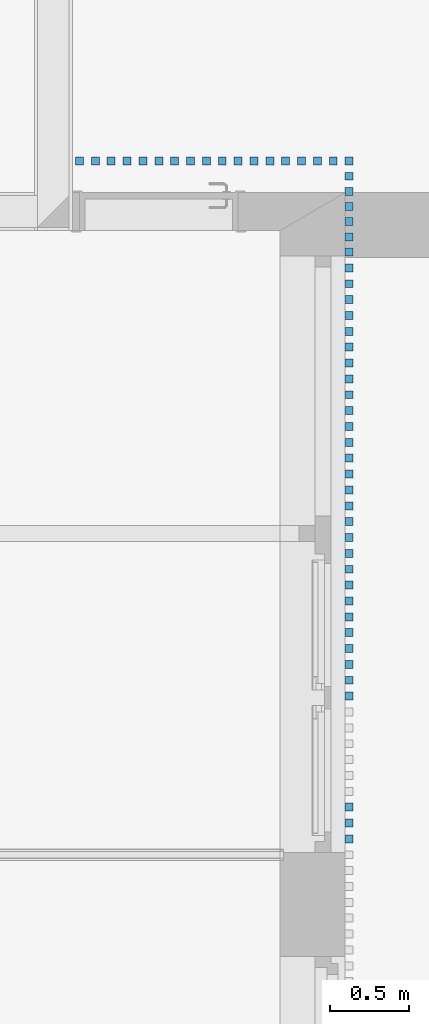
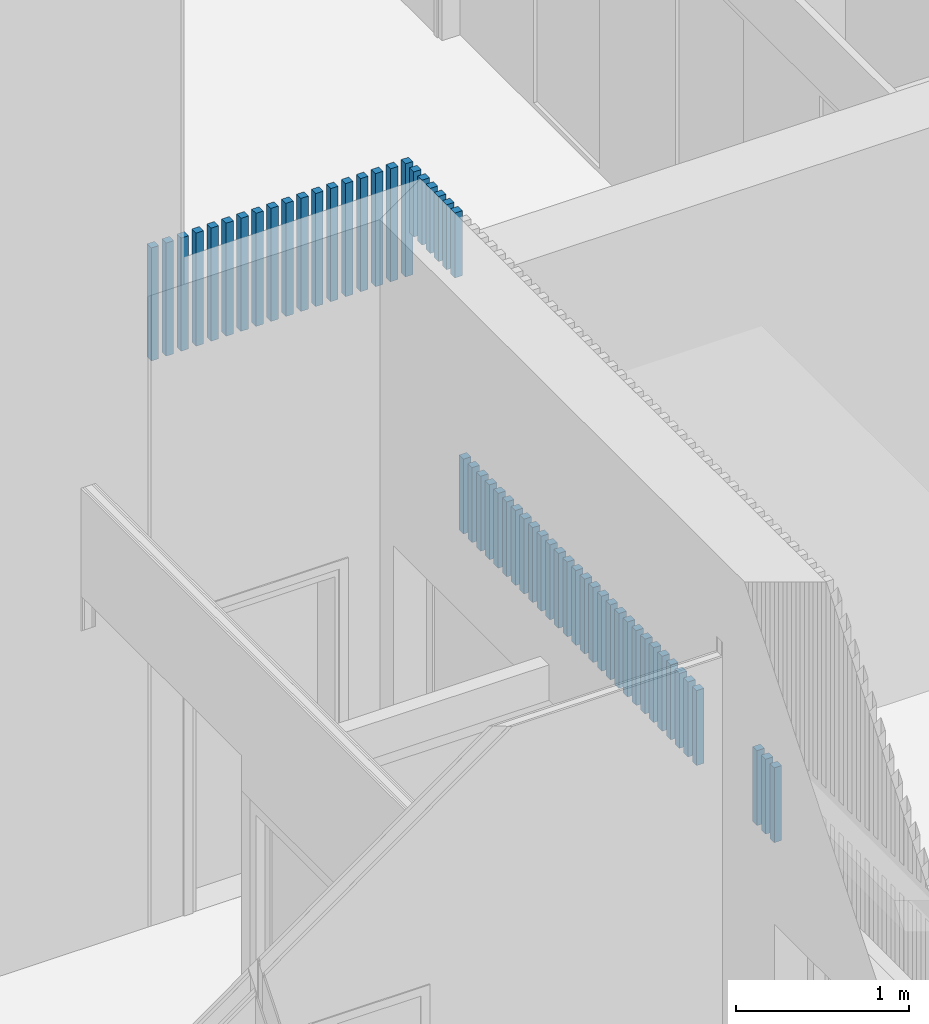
# One storey, part 2 of 34: 55 columns.
"""IFC2X3 building model written with IfcOpenShell, lengths in metres."""

from ifc_helpers import new_model, entity, si_unit, converted_unit, derived_unit, money_unit, direction, frame, origin_with_axes, origin_2d_with_axis, place, context, subcontext, project, spatial, rectangle, extrude, material, type_object, element, save


model = new_model("IFC2X3")

# Units and contexts
model_context = context("Model", 3, precision=1e-05, world=origin_with_axes(), true_north=direction((0.0, 1.0)))
body_context = subcontext(model_context, "Body", "Model", "MODEL_VIEW")
ifc_project = project(units=[si_unit("LENGTHUNIT", "METRE"), si_unit("AREAUNIT", "SQUARE_METRE"), si_unit("VOLUMEUNIT", "CUBIC_METRE"), converted_unit("PLANEANGLEUNIT", "DEGREE", entity("IfcPlaneAngleMeasure", 0.0174532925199), si_unit("PLANEANGLEUNIT", "RADIAN"), dimensions=[0, 0, 0, 0, 0, 0, 0]), money_unit("CHF"), converted_unit("TIMEUNIT", "Year", entity("IfcTimeMeasure", 31556926.0), si_unit("TIMEUNIT", "SECOND"), dimensions=[0, 0, 1, 0, 0, 0, 0]), si_unit("MASSUNIT", "GRAM", prefix="KILO"), si_unit("THERMODYNAMICTEMPERATUREUNIT", "DEGREE_CELSIUS"), si_unit("LUMINOUSINTENSITYUNIT", "LUMEN"), si_unit("ENERGYUNIT", "JOULE", prefix="MEGA"), derived_unit("THERMALCONDUCTANCEUNIT", [(si_unit("POWERUNIT", "WATT"), 1), (si_unit("LENGTHUNIT", "METRE"), -1), (si_unit("THERMODYNAMICTEMPERATUREUNIT", "KELVIN"), -1)]), derived_unit("SPECIFICHEATCAPACITYUNIT", [(si_unit("ENERGYUNIT", "JOULE"), 1), (si_unit("MASSUNIT", "GRAM", prefix="KILO"), -1), (si_unit("THERMODYNAMICTEMPERATUREUNIT", "KELVIN"), -1)]), derived_unit("MASSDENSITYUNIT", [(si_unit("MASSUNIT", "GRAM", prefix="KILO"), 1), (si_unit("VOLUMEUNIT", "CUBIC_METRE"), -1)])], contexts=[model_context])

# Site, building, storey
site_placement = place(None, origin_with_axes())
site = spatial("IfcSite", under=ifc_project, at=site_placement, Name="Site", CompositionType="ELEMENT")
building_placement = place(site_placement, origin_with_axes())
building = spatial("IfcBuilding", under=site, at=building_placement, Name="Bâtiment", CompositionType="ELEMENT")
storey_placement = place(building_placement, origin_with_axes())
storey = spatial("IfcBuildingStorey", under=building, at=storey_placement, Name="Rez-de-chaussée", CompositionType="ELEMENT", Elevation=0.0)

# Columns
ifc_material = material(Name="GEN - Structurel")
column_type = type_object("IfcColumnType", Name="GEN - Structurel 50 x 50", PredefinedType="COLUMN")
for number, where, z_axis, x_axis, name in (
    (1, (34.0644697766, 14.6451256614, 2.25), (0.0, 0.0, 1.0), (1.0, 0.0, 0.0), "POTEAU-002"),
    (2, (34.0644697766, 14.5451256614, 2.25), (0.0, 0.0, 1.0), (1.0, 0.0, 0.0), "POTEAU-002"),
    (3, (34.0644697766, 14.4451256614, 2.25), (0.0, 0.0, 1.0), (1.0, 0.0, 0.0), "POTEAU-002"),
    (4, (34.0644697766, 14.3451256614, 2.25), (0.0, 0.0, 1.0), (1.0, 0.0, 0.0), "POTEAU-002"),
    (5, (34.0644697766, 14.2451256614, 2.25), (0.0, 0.0, 1.0), (1.0, 0.0, 0.0), "POTEAU-002"),
    (6, (34.0644697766, 14.1451256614, 2.25), (0.0, 0.0, 1.0), (1.0, 0.0, 0.0), "POTEAU-002"),
    (7, (34.0644697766, 14.0451256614, 2.25), (0.0, 0.0, 1.0), (1.0, 0.0, 0.0), "POTEAU-002"),
    (8, (34.0644697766, 13.9451256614, 2.25), (0.0, 0.0, 1.0), (1.0, 0.0, 0.0), "POTEAU-002"),
    (9, (34.0644697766, 13.8451256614, 2.25), (0.0, 0.0, 1.0), (1.0, 0.0, 0.0), "POTEAU-002"),
    (10, (34.0644697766, 13.7451256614, 2.25), (0.0, 0.0, 1.0), (1.0, 0.0, 0.0), "POTEAU-002"),
    (11, (34.0644697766, 13.6451256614, 2.25), (0.0, 0.0, 1.0), (1.0, 0.0, 0.0), "POTEAU-002"),
    (12, (34.0644697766, 13.5451256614, 2.25), (0.0, 0.0, 1.0), (1.0, 0.0, 0.0), "POTEAU-002"),
    (13, (34.0644697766, 13.4451256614, 2.25), (0.0, 0.0, 1.0), (1.0, 0.0, 0.0), "POTEAU-002"),
    (14, (34.0644697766, 13.3451256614, 2.25), (0.0, 0.0, 1.0), (1.0, 0.0, 0.0), "POTEAU-002"),
    (15, (34.0644697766, 13.2451256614, 2.25), (0.0, 0.0, 1.0), (1.0, 0.0, 0.0), "POTEAU-002"),
    (16, (34.0644697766, 13.1451256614, 2.25), (0.0, 0.0, 1.0), (1.0, 0.0, 0.0), "POTEAU-002"),
    (17, (34.0644697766, 13.0451256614, 2.25), (0.0, 0.0, 1.0), (1.0, 0.0, 0.0), "POTEAU-002"),
    (18, (34.0644697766, 12.9451256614, 2.25), (0.0, 0.0, 1.0), (1.0, 0.0, 0.0), "POTEAU-002"),
    (19, (34.0644697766, 12.8451256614, 2.25), (0.0, 0.0, 1.0), (1.0, 0.0, 0.0), "POTEAU-002"),
    (20, (34.0644697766, 12.7451256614, 2.25), (0.0, 0.0, 1.0), (1.0, 0.0, 0.0), "POTEAU-002"),
    (21, (34.0644697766, 12.6451256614, 2.25), (0.0, 0.0, 1.0), (1.0, 0.0, 0.0), "POTEAU-002"),
    (22, (34.0644697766, 12.5451256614, 2.25), (0.0, 0.0, 1.0), (1.0, 0.0, 0.0), "POTEAU-002"),
    (23, (34.0644697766, 12.4451256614, 2.25), (0.0, 0.0, 1.0), (1.0, 0.0, 0.0), "POTEAU-002"),
    (24, (34.0644697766, 12.3451256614, 2.25), (0.0, 0.0, 1.0), (1.0, 0.0, 0.0), "POTEAU-002"),
    (25, (34.0644697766, 12.2451256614, 2.25), (0.0, 0.0, 1.0), (1.0, 0.0, 0.0), "POTEAU-002"),
    (26, (34.0644697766, 12.1451256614, 2.25), (0.0, 0.0, 1.0), (1.0, 0.0, 0.0), "POTEAU-002"),
    (27, (34.0644697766, 12.0451256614, 2.25), (0.0, 0.0, 1.0), (1.0, 0.0, 0.0), "POTEAU-002"),
    (28, (34.0644697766, 11.9451256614, 2.25), (0.0, 0.0, 1.0), (1.0, 0.0, 0.0), "POTEAU-002"),
    (29, (34.0644697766, 11.2451256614, 2.25), (0.0, 0.0, 1.0), (1.0, 0.0, 0.0), "POTEAU-002"),
    (30, (34.0644697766, 11.1451256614, 2.25), (0.0, 0.0, 1.0), (1.0, 0.0, 0.0), "POTEAU-002"),
    (31, (34.0644697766, 11.0451256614, 2.25), (0.0, 0.0, 1.0), (1.0, 0.0, 0.0), "POTEAU-002"),
):
    element("IfcColumn", number, at=place(storey_placement, frame(where, z_axis=z_axis, x_axis=x_axis)), inside=storey, type_object=column_type, material=ifc_material, Name=name, ObjectType="COLUMN", context=body_context, shape_type="SweptSolid", body=[
        extrude(rectangle(XDim=0.05, YDim=0.05, at=origin_2d_with_axis()), origin_with_axes(), (0.0, 0.0, 1.0), 0.53),
    ])
column_placement = place(storey_placement, frame((34.0644697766, 14.7451256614, 4.0), z_axis=(0.0, 0.0, 1.0), x_axis=(1.0, 0.0, 0.0)))
element("IfcColumn", 32, at=column_placement, inside=storey, type_object=column_type, material=ifc_material, Name="POTEAU-002", ObjectType="COLUMN", context=body_context, shape_type="SweptSolid", body=[
    extrude(rectangle(XDim=0.05, YDim=0.05, at=origin_2d_with_axis()), origin_with_axes(), (0.0, 0.0, 1.0), 0.46),
])
for number, where, z_axis, x_axis, name in (
    (33, (34.0644697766, 15.3181256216, 3.66), (0.0, 0.0, 1.0), (1.0, 0.0, 0.0), "POTEAU-002"),
    (34, (33.9644697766, 15.3181256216, 3.66), (0.0, 0.0, 1.0), (1.0, 0.0, 0.0), "POTEAU-002"),
    (35, (33.8644697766, 15.3181256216, 3.66), (0.0, 0.0, 1.0), (1.0, 0.0, 0.0), "POTEAU-002"),
    (36, (33.7644697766, 15.3181256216, 3.66), (0.0, 0.0, 1.0), (1.0, 0.0, 0.0), "POTEAU-002"),
    (37, (33.6644697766, 15.3181256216, 3.66), (0.0, 0.0, 1.0), (1.0, 0.0, 0.0), "POTEAU-002"),
    (38, (33.5644697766, 15.3181256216, 3.66), (0.0, 0.0, 1.0), (1.0, 0.0, 0.0), "POTEAU-002"),
    (39, (33.4644697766, 15.3181256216, 3.66), (0.0, 0.0, 1.0), (1.0, 0.0, 0.0), "POTEAU-002"),
    (40, (33.3644697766, 15.3181256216, 3.66), (0.0, 0.0, 1.0), (1.0, 0.0, 0.0), "POTEAU-002"),
    (41, (33.2644697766, 15.3181256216, 3.66), (0.0, 0.0, 1.0), (1.0, 0.0, 0.0), "POTEAU-002"),
    (42, (33.1644697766, 15.3181256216, 3.66), (0.0, 0.0, 1.0), (1.0, 0.0, 0.0), "POTEAU-002"),
    (43, (33.0644697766, 15.3181256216, 3.66), (0.0, 0.0, 1.0), (1.0, 0.0, 0.0), "POTEAU-002"),
    (44, (32.9644697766, 15.3181256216, 3.66), (0.0, 0.0, 1.0), (1.0, 0.0, 0.0), "POTEAU-002"),
    (45, (32.8644697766, 15.3181256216, 3.66), (0.0, 0.0, 1.0), (1.0, 0.0, 0.0), "POTEAU-002"),
    (46, (32.7644697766, 15.3181256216, 3.66), (0.0, 0.0, 1.0), (1.0, 0.0, 0.0), "POTEAU-002"),
    (47, (32.6644697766, 15.3181256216, 3.66), (0.0, 0.0, 1.0), (1.0, 0.0, 0.0), "POTEAU-002"),
    (48, (32.5644697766, 15.3181256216, 3.66), (0.0, 0.0, 1.0), (1.0, 0.0, 0.0), "POTEAU-002"),
    (49, (32.4644697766, 15.3181256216, 3.66), (0.0, 0.0, 1.0), (1.0, 0.0, 0.0), "POTEAU-002"),
    (50, (32.3644697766, 15.3181256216, 3.66), (0.0, 0.0, 1.0), (1.0, 0.0, 0.0), "POTEAU-002"),
):
    element("IfcColumn", number, at=place(storey_placement, frame(where, z_axis=z_axis, x_axis=x_axis)), inside=storey, type_object=column_type, material=ifc_material, Name=name, ObjectType="COLUMN", context=body_context, shape_type="SweptSolid", body=[
        extrude(rectangle(XDim=0.05, YDim=0.05, at=origin_2d_with_axis()), origin_with_axes(), (0.0, 0.0, 1.0), 0.8),
    ])
for number, where, z_axis, x_axis, name in (
    (51, (34.0644697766, 14.8406256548, 4.0), (0.0, 0.0, 1.0), (1.0, 0.0, 0.0), "POTEAU-002"),
    (52, (34.0644697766, 14.9361256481, 4.0), (0.0, 0.0, 1.0), (1.0, 0.0, 0.0), "POTEAU-002"),
    (53, (34.0644697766, 15.0316256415, 4.0), (0.0, 0.0, 1.0), (1.0, 0.0, 0.0), "POTEAU-002"),
    (54, (34.0644697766, 15.1271256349, 4.0), (0.0, 0.0, 1.0), (1.0, 0.0, 0.0), "POTEAU-002"),
    (55, (34.0644697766, 15.2226256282, 4.0), (0.0, 0.0, 1.0), (1.0, 0.0, 0.0), "POTEAU-002"),
):
    element("IfcColumn", number, at=place(storey_placement, frame(where, z_axis=z_axis, x_axis=x_axis)), inside=storey, type_object=column_type, material=ifc_material, Name=name, ObjectType="COLUMN", context=body_context, shape_type="SweptSolid", body=[
        extrude(rectangle(XDim=0.05, YDim=0.05, at=origin_2d_with_axis()), origin_with_axes(), (0.0, 0.0, 1.0), 0.46),
    ])

save(model, "model.ifc")
